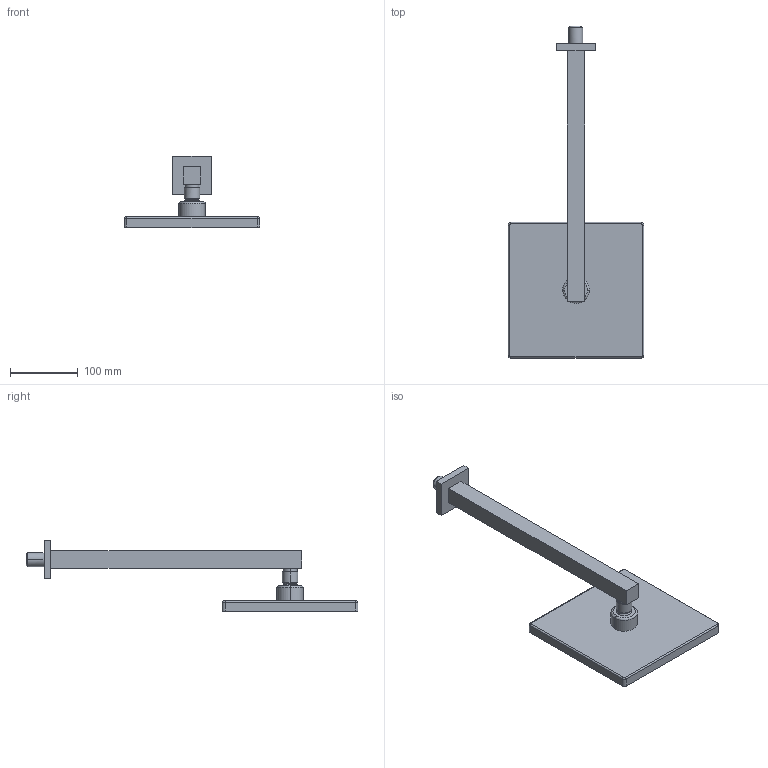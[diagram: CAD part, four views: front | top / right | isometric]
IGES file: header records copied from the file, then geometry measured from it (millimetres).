
Start section: Autodesk Alias AutoStudio 2020 (Build: 201905142046-4cbec609ad) Autodesk Translation Framework 8.4.1.1053
Global section: file name: 12303810; native system: unknown; preprocessor: unknown; author: unknown; organization: unknown; date: 20221007.144357; units: millimetre
Bounding box: 200 x 489.5 x 105.7 mm (x, y, z)
Surface area: 287091.2 mm2 (no closed solid volume)
Topology: 0 solids, 1 shells, 63 faces, 148 edges, 96 vertices
Faces by surface type: bspline 63
